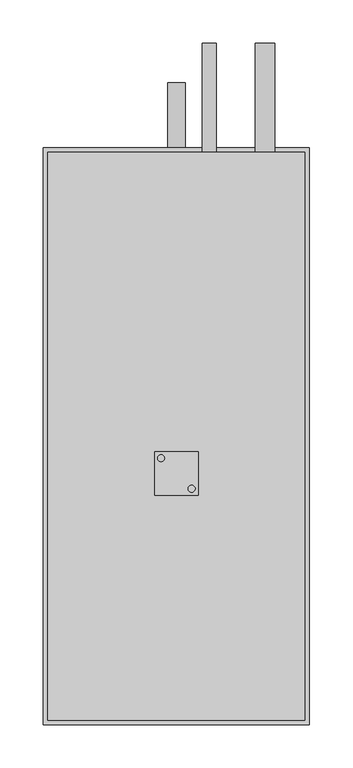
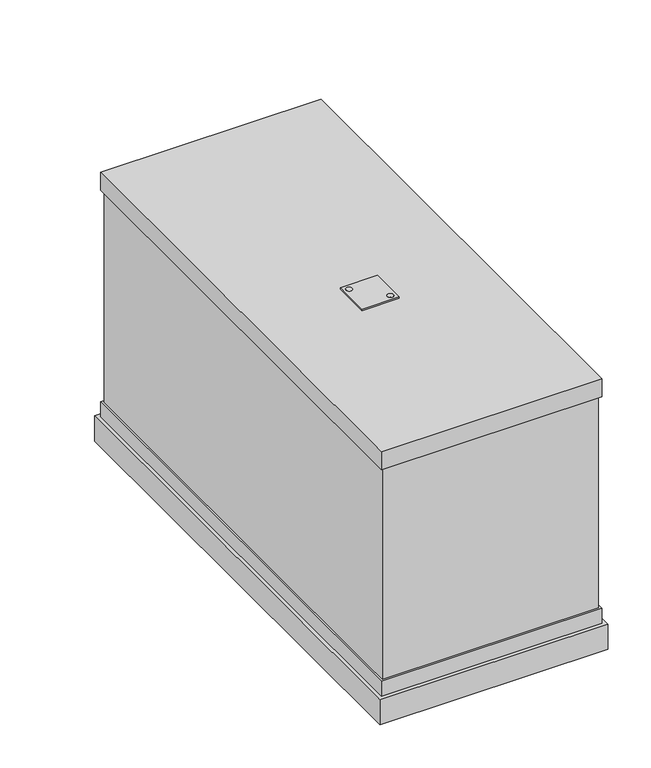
"""IFC4 building model written with IfcOpenShell, lengths in millimetres: proxy geometry, KORF_Воздухоохладитель_Фреоновый_FLO_Правый : FLO 50-30."""

import ifcopenshell
import ifcopenshell.guid

model = None  # the IFC model being written
_history = None  # IfcOwnerHistory: only IFC2X3 demands one
_inside = {}  # id of a spatial element -> (the spatial element, [elements in it])
_under = {}  # id of a project, library or spatial element -> (it, [spatial elements below it])
_declared = {}  # id of a project -> (the project, [libraries it declares])
_typed = {}  # id of a type object -> (the type object, [elements of that type])
_made_of = {}  # id of a material, layer set ... -> (it, [elements and type objects made of it])


def new_model(schema):
    """Start an empty IFC model of exactly this schema.

    Asked for "IFC4X3", IfcOpenShell would pick the latest addendum, in which some entities
    have other attributes; the version numbers below select the first issue.
    IFC2X3 requires an IfcOwnerHistory on every rooted entity: one is made here for all.
    """
    global model, _history
    if schema == "IFC4X3":
        model = ifcopenshell.file(schema_version=(4, 3, 0, 0))
    else:
        model = ifcopenshell.file(schema=schema)
    _inside.clear()
    _under.clear()
    _declared.clear()
    _typed.clear()
    _made_of.clear()
    _history = None
    if model.schema == "IFC2X3":
        org = make("IfcOrganization", Name="unknown")
        user = make(
            "IfcPersonAndOrganization",
            ThePerson=make("IfcPerson", FamilyName="unknown"),
            TheOrganization=org,
        )
        app = make(
            "IfcApplication",
            ApplicationDeveloper=org,
            Version="unknown",
            ApplicationFullName="unknown",
            ApplicationIdentifier="unknown",
        )
        _history = make(
            "IfcOwnerHistory",
            OwningUser=user,
            OwningApplication=app,
            ChangeAction="ADDED",
            CreationDate=0,
        )
    return model


def make(cls, **values):
    """One entity of the class cls with the attributes given. An attribute that is None is left unset."""
    return model.create_entity(
        cls, **{name: value for name, value in values.items() if value is not None}
    )


def rooted(cls, **values):
    """An entity with a GlobalId (a new one), such as an element, a storey or a relation."""
    return make(cls, GlobalId=ifcopenshell.guid.new(), OwnerHistory=_history, **values)


def si_unit(unit_type, name, prefix=None):
    """IfcSIUnit, for example si_unit("LENGTHUNIT", "METRE", prefix="MILLI")."""
    return make("IfcSIUnit", UnitType=unit_type, Prefix=prefix, Name=name)


def assignment(units):
    """IfcUnitAssignment: the units of a project."""
    return None if units is None else make("IfcUnitAssignment", Units=units)


def point(xyz):
    """IfcCartesianPoint."""
    return None if xyz is None else make("IfcCartesianPoint", Coordinates=xyz)


def direction(xyz):
    """IfcDirection."""
    return None if xyz is None else make("IfcDirection", DirectionRatios=xyz)


def frame(location, z_axis=None, x_axis=None):
    """IfcAxis2Placement3D, a coordinate frame: its origin and axes. An axis left out is left unset."""
    return make(
        "IfcAxis2Placement3D",
        Location=point(location),
        Axis=direction(z_axis),
        RefDirection=direction(x_axis),
    )


def frame_2d(location, x_axis=None):
    """IfcAxis2Placement2D, a coordinate frame in the plane: its origin and x axis."""
    return make(
        "IfcAxis2Placement2D", Location=point(location), RefDirection=direction(x_axis)
    )


def origin():
    """The frame at (0, 0, 0) with its axes left unset."""
    return frame((0.0, 0.0, 0.0))


def place(relative_to, where):
    """IfcLocalPlacement: puts the frame where relative to a parent placement (None: the world)."""
    return make(
        "IfcLocalPlacement", PlacementRelTo=relative_to, RelativePlacement=where
    )


def context(
    kind, dimensions, precision=None, world=None, true_north=None, identifier=None
):
    """IfcGeometricRepresentationContext, for example the 3D "Model" context."""
    return make(
        "IfcGeometricRepresentationContext",
        ContextIdentifier=identifier,
        ContextType=kind,
        CoordinateSpaceDimension=dimensions,
        Precision=precision,
        WorldCoordinateSystem=world,
        TrueNorth=true_north,
    )


def project(units=None, contexts=None):
    """IfcProject with its units and contexts."""
    return rooted(
        "IfcProject",
        Name="project",
        RepresentationContexts=contexts,
        UnitsInContext=assignment(units),
    )


def spatial(cls, under=None, at=None, **own):
    """A site, building, storey or space (cls), placed at a placement, below another one or the project."""
    s = rooted(cls, ObjectPlacement=at, **own)
    if under is not None:
        _under.setdefault(under.id(), (under, []))[1].append(s)
    return s


def polyline(points):
    """IfcPolyline through the points."""
    return make("IfcPolyline", Points=[point(p) for p in points])


def circle_curve(where, radius):
    """IfcCircle in the frame where."""
    return make("IfcCircle", Position=where, Radius=radius)


def trimmed(basis, trim1, trim2, sense, master):
    """IfcTrimmedCurve: the piece of a basis curve between two trims."""
    return make(
        "IfcTrimmedCurve",
        BasisCurve=basis,
        Trim1=trim1,
        Trim2=trim2,
        SenseAgreement=sense,
        MasterRepresentation=master,
    )


def segment(curve, same_sense, transition):
    """IfcCompositeCurveSegment."""
    return make(
        "IfcCompositeCurveSegment",
        Transition=transition,
        SameSense=same_sense,
        ParentCurve=curve,
    )


def composite_curve(segments, self_intersect=None):
    """IfcCompositeCurve: segments joined end to end."""
    return make("IfcCompositeCurve", Segments=segments, SelfIntersect=self_intersect)


def outline(outer, holes=None, kind="AREA"):
    """IfcArbitraryClosedProfileDef: a profile drawn as a closed curve; with holes, ...WithVoids."""
    if holes is None:
        return make("IfcArbitraryClosedProfileDef", ProfileType=kind, OuterCurve=outer)
    return make(
        "IfcArbitraryProfileDefWithVoids",
        ProfileType=kind,
        OuterCurve=outer,
        InnerCurves=holes,
    )


def extrude(swept, where, along, depth):
    """IfcExtrudedAreaSolid: the profile swept, set in the frame where, extruded along a direction by depth."""
    return make(
        "IfcExtrudedAreaSolid",
        SweptArea=swept,
        Position=where,
        ExtrudedDirection=direction(along),
        Depth=depth,
    )


def faces_of(points, faces, orient=None, outer=None):
    """IfcFace entities. A face is a list of loops; a loop is a list of indices into points, from 0.

    orient and outer hold one flag for each loop. By default every Orientation is true, the
    first loop of a face is its IfcFaceOuterBound and the others are IfcFaceBound.
    """
    made = []
    for i, loops in enumerate(faces):
        bounds = []
        for j, loop in enumerate(loops):
            is_outer = j == 0 if outer is None else outer[i][j]
            bounds.append(
                make(
                    "IfcFaceOuterBound" if is_outer else "IfcFaceBound",
                    Bound=make("IfcPolyLoop", Polygon=[points[k] for k in loop]),
                    Orientation=True if orient is None else orient[i][j],
                )
            )
        made.append(make("IfcFace", Bounds=bounds))
    return made


def faceted_brep(points, faces, orient=None, outer=None, voids=None):
    """IfcFacetedBrep: a solid bounded by flat faces; with voids (closed shells), ...WithVoids."""
    shared = [point(p) for p in points]
    hull = make("IfcClosedShell", CfsFaces=faces_of(shared, faces, orient, outer))
    if voids is None:
        return make("IfcFacetedBrep", Outer=hull)
    return make(
        "IfcFacetedBrepWithVoids",
        Outer=hull,
        Voids=[
            make(cls, CfsFaces=faces_of(shared, fs, o, b)) for cls, fs, o, b in voids
        ],
    )


def shape(context_of_items, identifier, shape_type, items):
    """IfcShapeRepresentation: the items that make up one representation, for example the "Body"."""
    return make(
        "IfcShapeRepresentation",
        ContextOfItems=context_of_items,
        RepresentationIdentifier=identifier,
        RepresentationType=shape_type,
        Items=items,
    )


def source(mapping_origin, context_of_items, identifier, shape_type, items):
    """IfcRepresentationMap: a shape defined once, which mapped items show again and again."""
    return make(
        "IfcRepresentationMap",
        MappingOrigin=mapping_origin,
        MappedRepresentation=shape(context_of_items, identifier, shape_type, items),
    )


def transform(
    local_origin,
    x_axis=None,
    y_axis=None,
    z_axis=None,
    scale=None,
    scale2=None,
    scale3=None,
    uniform=True,
):
    """IfcCartesianTransformationOperator3D, or its non-uniform kind. x_axis, y_axis, z_axis: its Axis1, 2, 3."""
    if uniform:
        return make(
            "IfcCartesianTransformationOperator3D",
            Axis1=direction(x_axis),
            Axis2=direction(y_axis),
            LocalOrigin=point(local_origin),
            Scale=scale,
            Axis3=direction(z_axis),
        )
    return make(
        "IfcCartesianTransformationOperator3DnonUniform",
        Axis1=direction(x_axis),
        Axis2=direction(y_axis),
        LocalOrigin=point(local_origin),
        Scale=scale,
        Axis3=direction(z_axis),
        Scale2=scale2,
        Scale3=scale3,
    )


def mapped(mapping_source, mapping_target):
    """IfcMappedItem: shows the shape of a source again, moved by a transform."""
    return make(
        "IfcMappedItem", MappingSource=mapping_source, MappingTarget=mapping_target
    )


def made_of(thing, what):
    """Note that an element or type object is made of a material, layer set ...; save() writes the relation."""
    if what is not None:
        _made_of.setdefault(what.id(), (what, []))[1].append(thing)
    return thing


def element(
    cls,
    number,
    at=None,
    inside=None,
    cuts=None,
    type_object=None,
    material=None,
    context=None,
    identifier="Body",
    shape_type=None,
    held_by="IfcProductDefinitionShape",
    body=None,
    shapes=None,
    **own,
):
    """One element of the class cls, such as IfcWall. Its Tag is "e" and its number.

    at: its placement. inside: the storey or other place that contains it. cuts: it is an
    opening in that element (IfcRelVoidsElement). A single representation is given by context,
    identifier, shape_type and body (its items); several are given by shapes. held_by: the class
    of the entity that holds the representations. save() writes the other relations.
    """
    e = rooted(cls, Tag="e%d" % number, ObjectPlacement=at, **own)
    if body is not None:
        shapes = [shape(context, identifier, shape_type, body)]
    if shapes is not None:
        e.Representation = make(held_by, Representations=shapes)
    if inside is not None:
        _inside.setdefault(inside.id(), (inside, []))[1].append(e)
    if cuts is not None:
        rooted(
            "IfcRelVoidsElement", RelatingBuildingElement=cuts, RelatedOpeningElement=e
        )
    if type_object is not None:
        _typed.setdefault(type_object.id(), (type_object, []))[1].append(e)
    return made_of(e, material)


def aggregate(whole, parts):
    """IfcRelAggregates: a whole, such as a stair, and the parts it consists of."""
    return rooted("IfcRelAggregates", RelatingObject=whole, RelatedObjects=parts)


def save(model, path):
    """Write the relations noted so far, then the file.

    IfcRelAggregates (storeys below a building ...), IfcRelContainedInSpatialStructure (elements
    in a storey), IfcRelDefinesByType, IfcRelAssociatesMaterial and IfcRelDeclares: one each for
    every whole, place, type object, material and project.
    """
    for whole, parts in _under.values():
        aggregate(whole, parts)
    for where, things in _inside.values():
        rooted(
            "IfcRelContainedInSpatialStructure",
            RelatedElements=things,
            RelatingStructure=where,
        )
    for kind, things in _typed.values():
        rooted("IfcRelDefinesByType", RelatedObjects=things, RelatingType=kind)
    for what, things in _made_of.values():
        rooted("IfcRelAssociatesMaterial", RelatedObjects=things, RelatingMaterial=what)
    for by, libraries in _declared.values():
        rooted("IfcRelDeclares", RelatingContext=by, RelatedDefinitions=libraries)
    model.write(path)


def mechanical_equipment_5a072199(model_context):
    return source(origin(), model_context, "Body", "SolidModel", [
        extrude(outline(composite_curve([segment(trimmed(circle_curve(frame_2d((170.5727066, -17.5745746)), 4.0), [point((174.5727066, -17.5745746))], [point((166.5727066, -17.5745746))], False, "CARTESIAN"), True, "CONTINUOUS"), segment(trimmed(circle_curve(frame_2d((170.5727066, -17.5745746)), 4.0), [point((166.5727066, -17.5745746))], [point((174.5727066, -17.5745746))], False, "CARTESIAN"), True, "CONTINUOUS")], self_intersect=False)), frame((0.0, 0.0, 176.0), z_axis=(0.0, 0.0, 1.0), x_axis=(1.0, 0.0, 0.0)), (0.0, 0.0, 1.0), 2.0),
        extrude(outline(composite_curve([segment(trimmed(circle_curve(frame_2d((135.4272934, 17.5745746)), 4.0), [point((131.4272934, 17.5745746))], [point((139.4272934, 17.5745746))], False, "CARTESIAN"), True, "CONTINUOUS"), segment(trimmed(circle_curve(frame_2d((135.4272934, 17.5745746)), 4.0), [point((139.4272934, 17.5745746))], [point((131.4272934, 17.5745746))], False, "CARTESIAN"), True, "CONTINUOUS")], self_intersect=False)), frame((0.0, 0.0, 176.0), z_axis=(0.0, 0.0, 1.0), x_axis=(1.0, 0.0, 0.0)), (0.0, 0.0, 1.0), 2.0),
        extrude(outline(polyline([(128.0, -25.0), (128.0, 25.0), (178.0, 25.0), (178.0, -25.0), (128.0, -25.0)]), holes=[composite_curve([segment(trimmed(circle_curve(frame_2d((170.5727066, -17.5745746)), 4.0), [point((174.5727066, -17.5745746))], [point((166.5727066, -17.5745746))], True, "CARTESIAN"), True, "CONTINUOUS"), segment(trimmed(circle_curve(frame_2d((170.5727066, -17.5745746)), 4.0), [point((166.5727066, -17.5745746))], [point((174.5727066, -17.5745746))], True, "CARTESIAN"), True, "CONTINUOUS")], self_intersect=False), composite_curve([segment(trimmed(circle_curve(frame_2d((135.4272934, 17.5745746)), 4.0), [point((131.4272934, 17.5745746))], [point((139.4272934, 17.5745746))], True, "CARTESIAN"), True, "CONTINUOUS"), segment(trimmed(circle_curve(frame_2d((135.4272934, 17.5745746)), 4.0), [point((139.4272934, 17.5745746))], [point((131.4272934, 17.5745746))], True, "CARTESIAN"), True, "CONTINUOUS")], self_intersect=False)]), frame((0.0, 0.0, 176.0), z_axis=(0.0, 0.0, 1.0), x_axis=(1.0, 0.0, 0.0)), (0.0, 0.0, 1.0), 2.0),
        faceted_brep([(306.0, -289.0, -171.0), (306.0, -289.0, -207.0), (306.0, 375.0, -207.0), (306.0, 375.0, -171.0), (0.0, -289.0, -171.0), (0.0, 375.0, -171.0), (0.0, 375.0, -207.0), (0.0, -289.0, -207.0), (301.0, 370.0, -171.0), (301.0, -284.0, -171.0), (5.0, -284.0, -171.0), (5.0, 370.0, -171.0), (298.0, -281.0, 150.0), (298.0, -281.0, -150.0), (298.0, -250.0, -150.0), (298.0, 250.0, -150.0), (298.0, 367.0, -150.0), (298.0, 367.0, 150.0), (298.0, 250.0, 150.0), (298.0, -250.0, 150.0), (8.0, 367.0, 150.0), (8.0, 367.0, -150.0), (8.0, 250.0, -150.0), (8.0, -250.0, -150.0), (8.0, -281.0, -150.0), (8.0, -281.0, 150.0), (8.0, -250.0, 150.0), (8.0, 250.0, 150.0), (301.0, -284.0, 150.0), (301.0, 370.0, 150.0), (301.0, 370.0, 176.0), (301.0, -284.0, 176.0), (301.0, -284.0, -150.0), (301.0, 370.0, -150.0), (5.0, -284.0, 150.0), (5.0, -284.0, 176.0), (5.0, 370.0, 176.0), (5.0, 370.0, 150.0), (5.0, -284.0, -150.0), (5.0, 370.0, -150.0)], [[[0, 1, 2, 3]], [[4, 5, 6, 7]], [[1, 0, 4, 7]], [[2, 1, 7, 6]], [[3, 2, 6, 5]], [[0, 3, 5, 4], [8, 9, 10, 11]], [[12, 13, 14, 15, 16, 17, 18, 19]], [[20, 21, 22, 23, 24, 25, 26, 27]], [[13, 12, 25, 24]], [[17, 16, 21, 20]], [[28, 29, 30, 31]], [[32, 9, 8, 33]], [[34, 35, 36, 37]], [[38, 39, 11, 10]], [[29, 28, 34, 37], [12, 19, 18, 17, 20, 27, 26, 25]], [[30, 29, 37, 36]], [[31, 30, 36, 35]], [[28, 31, 35, 34]], [[9, 32, 38, 10]], [[33, 8, 11, 39]], [[32, 33, 39, 38], [14, 13, 24, 23, 22, 21, 16, 15]]]),
        extrude(outline(composite_curve([segment(trimmed(circle_curve(frame_2d((-99.0, 255.0)), 11.11), [point((-99.0, 243.89))], [point((-99.0, 266.11))], False, "CARTESIAN"), True, "CONTINUOUS"), segment(trimmed(circle_curve(frame_2d((-99.0, 255.0)), 11.11), [point((-99.0, 266.11))], [point((-99.0, 243.89))], False, "CARTESIAN"), True, "CONTINUOUS")], self_intersect=False)), frame((0.0, 367.0, 0.0), z_axis=(0.0, 1.0, 0.0), x_axis=(0.0, 0.0, 1.0)), (0.0, 0.0, 1.0), 128.0),
        extrude(outline(composite_curve([segment(trimmed(circle_curve(frame_2d((61.0, 191.0)), 7.94), [point((61.0, 183.06))], [point((61.0, 198.94))], False, "CARTESIAN"), True, "CONTINUOUS"), segment(trimmed(circle_curve(frame_2d((61.0, 191.0)), 7.94), [point((61.0, 198.94))], [point((61.0, 183.06))], False, "CARTESIAN"), True, "CONTINUOUS")], self_intersect=False)), frame((0.0, 367.0, 0.0), z_axis=(0.0, 1.0, 0.0), x_axis=(0.0, 0.0, 1.0)), (0.0, 0.0, 1.0), 128.0),
        extrude(outline(composite_curve([segment(trimmed(circle_curve(frame_2d((-189.0, 153.0)), 10.0), [point((-189.0, 143.0))], [point((-189.0, 163.0))], False, "CARTESIAN"), True, "CONTINUOUS"), segment(trimmed(circle_curve(frame_2d((-189.0, 153.0)), 10.0), [point((-189.0, 163.0))], [point((-189.0, 143.0))], False, "CARTESIAN"), True, "CONTINUOUS")], self_intersect=False)), frame((0.0, 375.0, 0.0), z_axis=(0.0, 1.0, 0.0), x_axis=(0.0, 0.0, 1.0)), (0.0, 0.0, 1.0), 75.0),
    ])


if __name__ == "__main__":
    model = new_model("IFC4")
    model_context = context("Model", 3, world=origin())
    ifc_project = project(units=[si_unit("LENGTHUNIT", "METRE", prefix="MILLI")], contexts=[model_context])
    site = spatial("IfcSite", under=ifc_project)
    building = spatial("IfcBuilding", under=site)
    placement = place(None, origin())
    mechanical_equipment_shape = mechanical_equipment_5a072199(model_context)
    element("IfcBuildingElementProxy", 1, Name="KORF_Воздухоохладитель_Фреоновый_FLO_Правый : FLO 50-30", ObjectType="KORF_Воздухоохладитель_Фреоновый_FLO_Правый : FLO 50-30", at=placement, inside=building, context=model_context, shape_type="MappedRepresentation", body=[
        mapped(mechanical_equipment_shape, transform((0.0, 0.0, 0.0), x_axis=(1.0, 0.0, 0.0), y_axis=(0.0, 1.0, 0.0), z_axis=(0.0, 0.0, 1.0))),
    ])
    save(model, "model.ifc")
